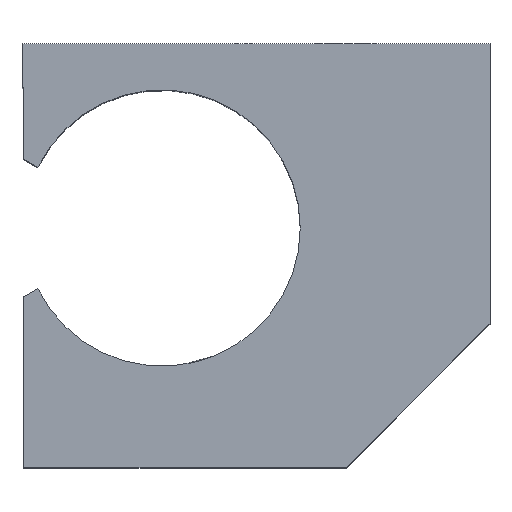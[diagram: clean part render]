
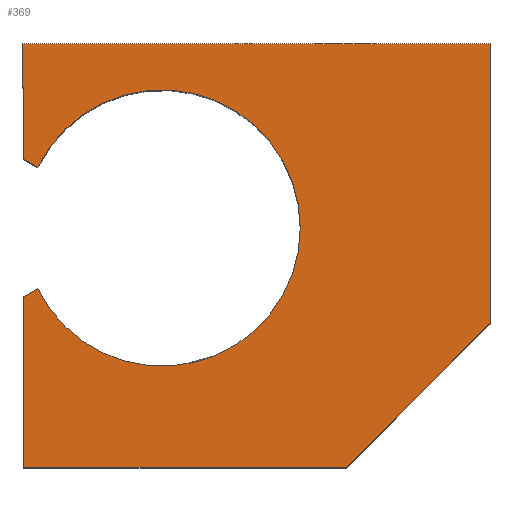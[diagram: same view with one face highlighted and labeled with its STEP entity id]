
A CAD part, top view. The second image highlights one B-rep face of the part: STEP entity #369.
In plain terms, the highlighted planar face has unit normal (0, 0, 1).
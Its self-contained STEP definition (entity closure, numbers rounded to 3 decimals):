
#24 = EDGE_LOOP ( 'NONE', ( #576, #1142, #267, #251, #44, #1339, #679, #485, #1227, #424, #1260, #615 ) ) ;
#44 = ORIENTED_EDGE ( 'NONE', *, *, #669, .F. ) ;
#51 = EDGE_CURVE ( 'NONE', #368, #194, #651, .T. ) ;
#73 = VERTEX_POINT ( 'NONE', #444 ) ;
#88 = CARTESIAN_POINT ( 'NONE',  ( -63., 45.5, 56.5 ) ) ;
#96 = LINE ( 'NONE', #88, #241 ) ;
#132 = CARTESIAN_POINT ( 'NONE',  ( 63.5, -18.5, 56.5 ) ) ;
#177 = CARTESIAN_POINT ( 'NONE',  ( -63., 26.208, 56.5 ) ) ;
#190 = CARTESIAN_POINT ( 'NONE',  ( -59.175, 24., 56.5 ) ) ;
#194 = VERTEX_POINT ( 'NONE', #956 ) ;
#200 = DIRECTION ( 'NONE',  ( 0., -1., 0. ) ) ;
#213 = CARTESIAN_POINT ( 'NONE',  ( -63., -57.5, 56.5 ) ) ;
#232 = CARTESIAN_POINT ( 'NONE',  ( 0., 0., 56.5 ) ) ;
#241 = VECTOR ( 'NONE', #506, 1000. ) ;
#245 = VECTOR ( 'NONE', #540, 1000. ) ;
#251 = ORIENTED_EDGE ( 'NONE', *, *, #612, .F. ) ;
#261 = DIRECTION ( 'NONE',  ( -1., 0., 0. ) ) ;
#267 = ORIENTED_EDGE ( 'NONE', *, *, #460, .F. ) ;
#269 = CIRCLE ( 'NONE', #1182, 37.5 ) ;
#301 = CARTESIAN_POINT ( 'NONE',  ( -63.5, 57.5, 56.5 ) ) ;
#311 = VERTEX_POINT ( 'NONE', #213 ) ;
#317 = LINE ( 'NONE', #974, #542 ) ;
#318 = EDGE_CURVE ( 'NONE', #311, #442, #879, .T. ) ;
#334 = PLANE ( 'NONE',  #580 ) ;
#357 = CARTESIAN_POINT ( 'NONE',  ( -63.5, 57.5, 56.5 ) ) ;
#368 = VERTEX_POINT ( 'NONE', #132 ) ;
#369 = ADVANCED_FACE ( 'NONE', ( #1000 ), #334, .T. ) ;
#381 = AXIS2_PLACEMENT_3D ( 'NONE', #688, #1119, #589 ) ;
#382 = VECTOR ( 'NONE', #1362, 1000. ) ;
#410 = LINE ( 'NONE', #622, #382 ) ;
#411 = VERTEX_POINT ( 'NONE', #889 ) ;
#424 = ORIENTED_EDGE ( 'NONE', *, *, #51, .T. ) ;
#442 = VERTEX_POINT ( 'NONE', #1007 ) ;
#444 = CARTESIAN_POINT ( 'NONE',  ( -63.5, 45.5, 56.5 ) ) ;
#446 = DIRECTION ( 'NONE',  ( 1., 0., 0. ) ) ;
#460 = EDGE_CURVE ( 'NONE', #1193, #1030, #1317, .T. ) ;
#473 = VERTEX_POINT ( 'NONE', #357 ) ;
#485 = ORIENTED_EDGE ( 'NONE', *, *, #318, .T. ) ;
#506 = DIRECTION ( 'NONE',  ( -1., 0., 0. ) ) ;
#522 = CIRCLE ( 'NONE', #381, 37.5 ) ;
#540 = DIRECTION ( 'NONE',  ( 0., 1., 0. ) ) ;
#542 = VECTOR ( 'NONE', #981, 1000. ) ;
#550 = LINE ( 'NONE', #666, #1025 ) ;
#558 = DIRECTION ( 'NONE',  ( 1., 0., 0. ) ) ;
#576 = ORIENTED_EDGE ( 'NONE', *, *, #1145, .F. ) ;
#580 = AXIS2_PLACEMENT_3D ( 'NONE', #232, #886, #446 ) ;
#589 = DIRECTION ( 'NONE',  ( 1., 0., 0. ) ) ;
#612 = EDGE_CURVE ( 'NONE', #650, #1193, #269, .T. ) ;
#615 = ORIENTED_EDGE ( 'NONE', *, *, #859, .T. ) ;
#622 = CARTESIAN_POINT ( 'NONE',  ( -63.5, -11.497, 56.5 ) ) ;
#645 = LINE ( 'NONE', #1361, #1342 ) ;
#650 = VERTEX_POINT ( 'NONE', #917 ) ;
#651 = LINE ( 'NONE', #1089, #245 ) ;
#666 = CARTESIAN_POINT ( 'NONE',  ( 41., -41., 56.5 ) ) ;
#669 = EDGE_CURVE ( 'NONE', #935, #650, #522, .T. ) ;
#679 = ORIENTED_EDGE ( 'NONE', *, *, #878, .F. ) ;
#685 = DIRECTION ( 'NONE',  ( -0.866, 0.5, 0. ) ) ;
#688 = CARTESIAN_POINT ( 'NONE',  ( -25.5, 7.5, 56.5 ) ) ;
#690 = VERTEX_POINT ( 'NONE', #1338 ) ;
#740 = CARTESIAN_POINT ( 'NONE',  ( -25.5, 7.5, 56.5 ) ) ;
#757 = CARTESIAN_POINT ( 'NONE',  ( -59.175, -9., 56.5 ) ) ;
#767 = CARTESIAN_POINT ( 'NONE',  ( -63.5, -57.5, 56.5 ) ) ;
#777 = EDGE_CURVE ( 'NONE', #411, #935, #410, .T. ) ;
#780 = DIRECTION ( 'NONE',  ( 1., 0., 0. ) ) ;
#807 = VECTOR ( 'NONE', #685, 1000. ) ;
#859 = EDGE_CURVE ( 'NONE', #473, #73, #1168, .T. ) ;
#878 = EDGE_CURVE ( 'NONE', #311, #411, #317, .T. ) ;
#879 = LINE ( 'NONE', #767, #1133 ) ;
#882 = VECTOR ( 'NONE', #261, 1000. ) ;
#886 = DIRECTION ( 'NONE',  ( 0., 0., 1. ) ) ;
#889 = CARTESIAN_POINT ( 'NONE',  ( -63., -11.208, 56.5 ) ) ;
#917 = CARTESIAN_POINT ( 'NONE',  ( 12., 7.5, 56.5 ) ) ;
#935 = VERTEX_POINT ( 'NONE', #757 ) ;
#956 = CARTESIAN_POINT ( 'NONE',  ( 63.5, 57.5, 56.5 ) ) ;
#974 = CARTESIAN_POINT ( 'NONE',  ( -63., 45.5, 56.5 ) ) ;
#981 = DIRECTION ( 'NONE',  ( 0., 1., 0. ) ) ;
#1000 = FACE_OUTER_BOUND ( 'NONE', #24, .T. ) ;
#1007 = CARTESIAN_POINT ( 'NONE',  ( 24.5, -57.5, 56.5 ) ) ;
#1013 = EDGE_CURVE ( 'NONE', #442, #368, #550, .T. ) ;
#1025 = VECTOR ( 'NONE', #1192, 1000. ) ;
#1030 = VERTEX_POINT ( 'NONE', #177 ) ;
#1039 = CARTESIAN_POINT ( 'NONE',  ( -63.5, 57.5, 56.5 ) ) ;
#1065 = DIRECTION ( 'NONE',  ( 0., 1., 0. ) ) ;
#1067 = EDGE_CURVE ( 'NONE', #194, #473, #1123, .T. ) ;
#1089 = CARTESIAN_POINT ( 'NONE',  ( 63.5, 57.5, 56.5 ) ) ;
#1119 = DIRECTION ( 'NONE',  ( 0., 0., 1. ) ) ;
#1123 = LINE ( 'NONE', #1039, #882 ) ;
#1133 = VECTOR ( 'NONE', #780, 1000. ) ;
#1142 = ORIENTED_EDGE ( 'NONE', *, *, #1236, .F. ) ;
#1145 = EDGE_CURVE ( 'NONE', #690, #73, #96, .T. ) ;
#1156 = VECTOR ( 'NONE', #200, 1000. ) ;
#1168 = LINE ( 'NONE', #301, #1156 ) ;
#1177 = DIRECTION ( 'NONE',  ( 0., 0., 1. ) ) ;
#1182 = AXIS2_PLACEMENT_3D ( 'NONE', #740, #1177, #558 ) ;
#1192 = DIRECTION ( 'NONE',  ( 0.707, 0.707, 0. ) ) ;
#1193 = VERTEX_POINT ( 'NONE', #190 ) ;
#1218 = CARTESIAN_POINT ( 'NONE',  ( -59.175, 24., 56.5 ) ) ;
#1227 = ORIENTED_EDGE ( 'NONE', *, *, #1013, .T. ) ;
#1236 = EDGE_CURVE ( 'NONE', #1030, #690, #645, .T. ) ;
#1260 = ORIENTED_EDGE ( 'NONE', *, *, #1067, .T. ) ;
#1317 = LINE ( 'NONE', #1218, #807 ) ;
#1338 = CARTESIAN_POINT ( 'NONE',  ( -63., 45.5, 56.5 ) ) ;
#1339 = ORIENTED_EDGE ( 'NONE', *, *, #777, .F. ) ;
#1342 = VECTOR ( 'NONE', #1065, 1000. ) ;
#1361 = CARTESIAN_POINT ( 'NONE',  ( -63., 45.5, 56.5 ) ) ;
#1362 = DIRECTION ( 'NONE',  ( 0.866, 0.5, 0. ) ) ;
